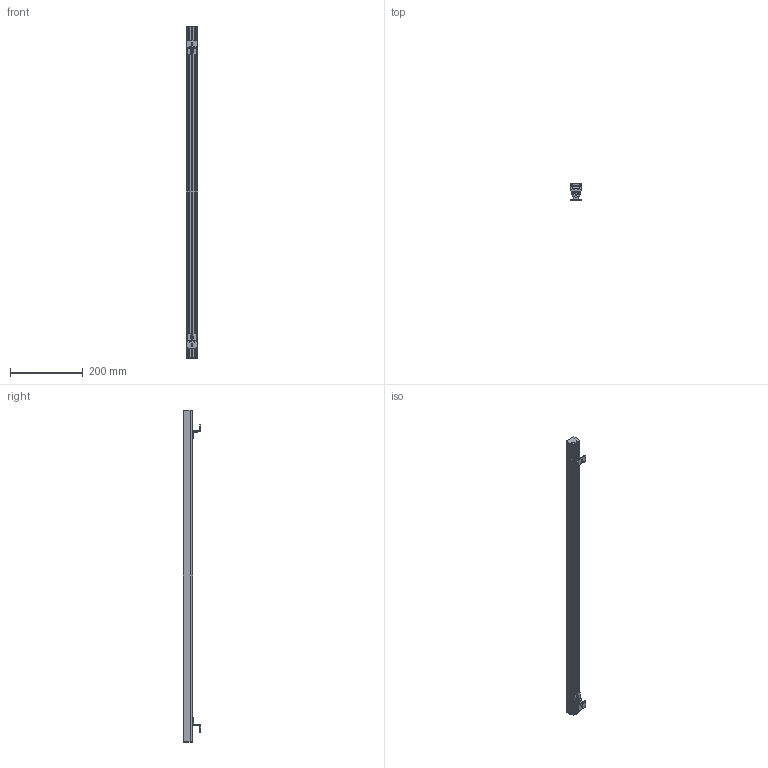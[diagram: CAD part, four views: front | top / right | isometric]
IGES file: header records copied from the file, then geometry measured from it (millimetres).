
Start section: SolidWorks IGES file using analytic representation for surfaces
Global section: file name: L:\Tecnico_PMT\R&D\NEMOstudio\WALKLINE Facade\PLAFONE\3D SITO\FACADE 910.IGS; native system: SolidWorks 2016; preprocessor: SolidWorks 2016; author: MartinaCornero; date: 230323.152621; units: millimetre
Bounding box: 30.36 x 47.51 x 914 mm (x, y, z)
Surface area: 294666.5 mm2 (no closed solid volume)
Topology: 0 solids, 0 shells, 965 faces, 8072 edges, 8072 vertices
Faces by surface type: bspline 607, revolution 358
